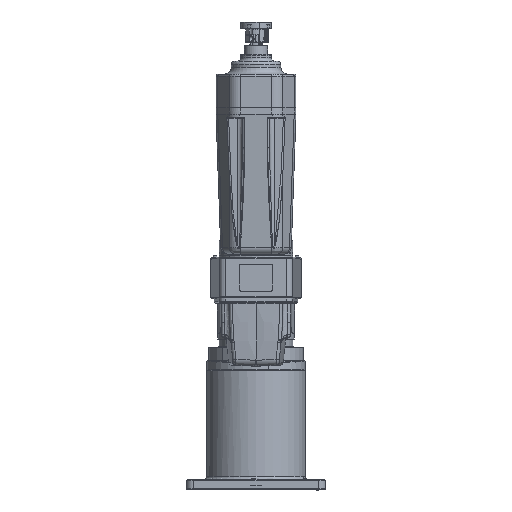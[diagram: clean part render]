
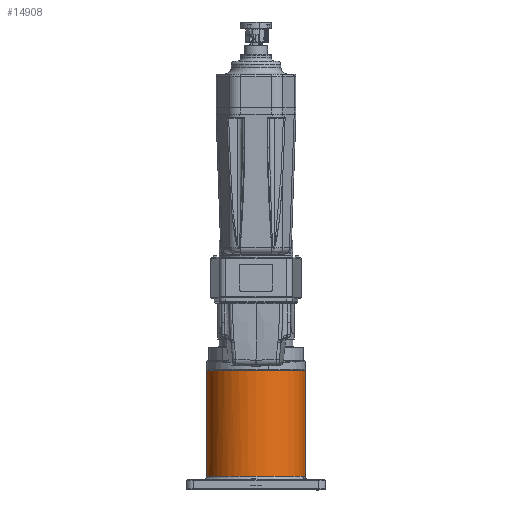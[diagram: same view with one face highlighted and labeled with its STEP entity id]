
A CAD part, top view. The second image highlights one B-rep face of the part: STEP entity #14908.
In plain terms, the highlighted cylindrical face has radius 73.5 mm (diameter 147 mm), a partial arc.
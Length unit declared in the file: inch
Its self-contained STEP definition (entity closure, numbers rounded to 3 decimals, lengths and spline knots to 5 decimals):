
#11246=CARTESIAN_POINT('',(7.60702,6.81102,3.84413));
#11247=CARTESIAN_POINT('',(7.60809,6.81047,3.8468));
#11248=CARTESIAN_POINT('',(7.61627,6.80618,3.86729));
#11249=CARTESIAN_POINT('',(7.63093,6.79777,3.90526));
#11250=CARTESIAN_POINT('',(7.65036,6.78489,3.95866));
#11251=CARTESIAN_POINT('',(7.66923,6.7706,4.01386));
#11252=CARTESIAN_POINT('',(7.6881,6.75429,4.07304));
#11253=CARTESIAN_POINT('',(7.70708,6.73547,4.13748));
#11254=CARTESIAN_POINT('',(7.72591,6.71389,4.20758));
#11255=CARTESIAN_POINT('',(7.74429,6.68927,4.28389));
#11256=CARTESIAN_POINT('',(7.76191,6.66117,4.36733));
#11257=CARTESIAN_POINT('',(7.77833,6.62917,4.45891));
#11258=CARTESIAN_POINT('',(7.79291,6.5929,4.55945));
#11259=CARTESIAN_POINT('',(7.8048,6.55204,4.66986));
#11260=CARTESIAN_POINT('',(7.81299,6.50614,4.79153));
#11261=CARTESIAN_POINT('',(7.81496,6.47374,4.87654));
#11262=CARTESIAN_POINT('',(7.81496,6.45669,4.92126));
#11264=CARTESIAN_POINT('',(2.02756,6.45669,4.92126));
#11265=CARTESIAN_POINT('',(2.02756,6.51324,4.77741));
#11266=CARTESIAN_POINT('',(2.04852,6.61498,4.50375));
#11267=CARTESIAN_POINT('',(2.13063,6.7424,4.12935));
#11268=CARTESIAN_POINT('',(2.20014,6.79291,3.9323));
#11269=CARTESIAN_POINT('',(2.2355,6.81102,3.84413));
#11271=CARTESIAN_POINT('',(4.92126,6.81102,4.92126));
#11272=DIRECTION('',(0.,-1.,0.));
#11273=DIRECTION('',(0.928,0.,-0.372));
#11274=AXIS2_PLACEMENT_3D('',#11271,#11272,#11273);
#11276=CARTESIAN_POINT('',(4.92126,6.81102,4.92126));
#11277=DIRECTION('',(0.,-1.,0.));
#11278=DIRECTION('',(1.,0.,0.));
#11279=AXIS2_PLACEMENT_3D('',#11276,#11277,#11278);
#11281=CARTESIAN_POINT('',(4.92126,6.81102,4.92126));
#11282=DIRECTION('',(0.,-1.,0.));
#11283=DIRECTION('',(0.,0.,1.));
#11284=AXIS2_PLACEMENT_3D('',#11281,#11282,#11283);
#11286=CARTESIAN_POINT('',(4.92126,6.81102,4.92126));
#11287=DIRECTION('',(0.,-1.,0.));
#11288=DIRECTION('',(-1.,0.,0.));
#11289=AXIS2_PLACEMENT_3D('',#11286,#11287,#11288);
#11586=DIRECTION('',(0.,-1.,0.));
#11587=VECTOR('',#11586,5.82677);
#11588=CARTESIAN_POINT('',(2.02756,6.45669,4.92126));
#11589=LINE('',#11588,#11587);
#11611=CARTESIAN_POINT('',(4.92126,0.62992,
4.92126));
#11612=DIRECTION('',(0.,1.,0.));
#11613=DIRECTION('',(-1.,0.,0.));
#11614=AXIS2_PLACEMENT_3D('',#11611,#11612,#11613);
#11616=CARTESIAN_POINT('',(4.92126,0.62992,
4.92126));
#11617=DIRECTION('',(0.,1.,0.));
#11618=DIRECTION('',(-0.872,0.,0.49));
#11619=AXIS2_PLACEMENT_3D('',#11616,#11617,#11618);
#11621=CARTESIAN_POINT('',(4.92126,0.62992,
4.92126));
#11622=DIRECTION('',(0.,1.,0.));
#11623=DIRECTION('',(0.,0.,1.));
#11624=AXIS2_PLACEMENT_3D('',#11621,#11622,#11623);
#11928=DIRECTION('',(0.,1.,0.));
#11929=VECTOR('',#11928,5.82677);
#11930=CARTESIAN_POINT('',(7.81496,0.62992,
4.92126));
#11931=LINE('',#11930,#11929);
#14233=CARTESIAN_POINT('',(2.02756,6.81102,4.92126));
#14234=CARTESIAN_POINT('',(2.2355,6.81102,3.84413));
#14235=VERTEX_POINT('',#14233);
#14236=VERTEX_POINT('',#14234);
#14237=CARTESIAN_POINT('',(4.92134,6.81102,7.81496));
#14238=VERTEX_POINT('',#14237);
#14239=CARTESIAN_POINT('',(7.81496,6.81102,4.92126));
#14240=VERTEX_POINT('',#14239);
#14241=CARTESIAN_POINT('',(7.60702,6.81102,3.84412));
#14242=VERTEX_POINT('',#14241);
#14243=VERTEX_POINT('',#11262);
#14244=CARTESIAN_POINT('',(7.81496,0.62992,
4.92126));
#14245=VERTEX_POINT('',#14244);
#14246=CARTESIAN_POINT('',(4.92126,0.62992,
7.81496));
#14247=VERTEX_POINT('',#14246);
#14248=CARTESIAN_POINT('',(2.39852,0.62992,
6.33875));
#14249=VERTEX_POINT('',#14248);
#14250=CARTESIAN_POINT('',(2.02756,0.62992,
4.92126));
#14251=VERTEX_POINT('',#14250);
#14252=CARTESIAN_POINT('',(2.02756,6.45669,4.92126));
#14253=VERTEX_POINT('',#14252);
#14879=CARTESIAN_POINT('',(4.92126,6.92913,4.92126));
#14880=DIRECTION('',(0.,-1.,0.));
#14881=DIRECTION('',(0.,0.,-1.));
#14882=AXIS2_PLACEMENT_3D('',#14879,#14880,#14881);
#14883=CYLINDRICAL_SURFACE('',#14882,2.8937);
#14885=ORIENTED_EDGE('',*,*,#14884,.F.);
#14887=ORIENTED_EDGE('',*,*,#14886,.F.);
#14889=ORIENTED_EDGE('',*,*,#14888,.F.);
#14891=ORIENTED_EDGE('',*,*,#14890,.F.);
#14893=ORIENTED_EDGE('',*,*,#14892,.T.);
#14895=ORIENTED_EDGE('',*,*,#14894,.F.);
#14897=ORIENTED_EDGE('',*,*,#14896,.F.);
#14899=ORIENTED_EDGE('',*,*,#14898,.F.);
#14901=ORIENTED_EDGE('',*,*,#14900,.F.);
#14903=ORIENTED_EDGE('',*,*,#14902,.F.);
#14905=ORIENTED_EDGE('',*,*,#14904,.T.);
#14906=EDGE_LOOP('',(#14885,#14887,#14889,#14891,#14893,#14895,#14897,#14899,
#14901,#14903,#14905));
#14907=FACE_OUTER_BOUND('',#14906,.F.);
#11263=B_SPLINE_CURVE_WITH_KNOTS('',3,(#11246,#11247,#11248,#11249,#11250,
#11251,#11252,#11253,#11254,#11255,#11256,#11257,#11258,#11259,#11260,#11261,
#11262),.UNSPECIFIED.,.F.,.F.,(4,1,1,1,1,1,1,1,1,1,1,1,1,1,4),(0.,
0.00758,0.05793,0.10721,0.15793,
0.21299,0.27306,0.33814,0.40867,
0.48569,0.57026,0.66306,0.76464,
0.87624,1.),.UNSPECIFIED.);
#11270=B_SPLINE_CURVE_WITH_KNOTS('',3,(#11264,#11265,#11266,#11267,#11268,
#11269),.UNSPECIFIED.,.F.,.F.,(4,1,1,4),(0.,0.33333,
0.66667,1.),.UNSPECIFIED.);
#11275=CIRCLE('',#11274,2.8937);
#11280=CIRCLE('',#11279,2.8937);
#11285=CIRCLE('',#11284,2.8937);
#11290=CIRCLE('',#11289,2.8937);
#11615=CIRCLE('',#11614,2.8937);
#11620=CIRCLE('',#11619,2.8937);
#11625=CIRCLE('',#11624,2.8937);
#14884=EDGE_CURVE('',#14235,#14236,#11290,.T.);
#14886=EDGE_CURVE('',#14238,#14235,#11285,.T.);
#14888=EDGE_CURVE('',#14240,#14238,#11280,.T.);
#14890=EDGE_CURVE('',#14242,#14240,#11275,.T.);
#14892=EDGE_CURVE('',#14242,#14243,#11263,.T.);
#14894=EDGE_CURVE('',#14245,#14243,#11931,.T.);
#14896=EDGE_CURVE('',#14247,#14245,#11625,.T.);
#14898=EDGE_CURVE('',#14249,#14247,#11620,.T.);
#14900=EDGE_CURVE('',#14251,#14249,#11615,.T.);
#14902=EDGE_CURVE('',#14253,#14251,#11589,.T.);
#14904=EDGE_CURVE('',#14253,#14236,#11270,.T.);
#14908=ADVANCED_FACE('',(#14907),#14883,.T.);
